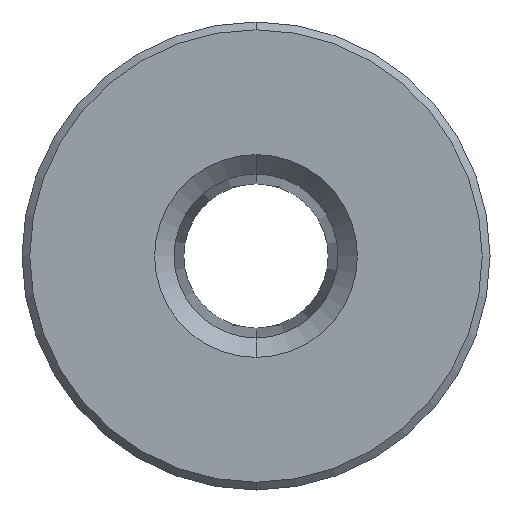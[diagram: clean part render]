
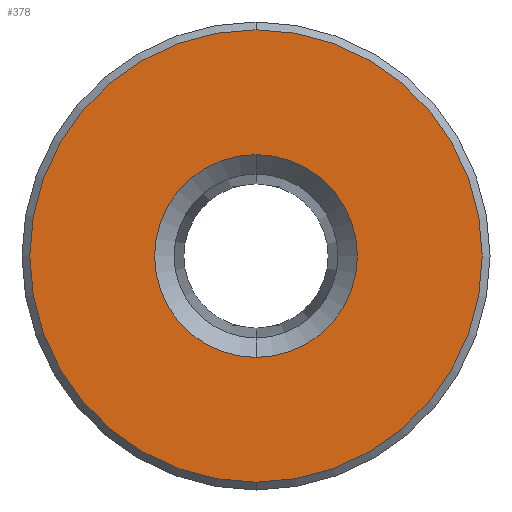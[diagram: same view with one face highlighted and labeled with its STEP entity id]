
A CAD part, front view. The second image highlights one B-rep face of the part: STEP entity #378.
In plain terms, the highlighted planar face has unit normal (0, -1, 0).
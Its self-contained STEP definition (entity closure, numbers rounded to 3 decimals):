
#8 = DIRECTION ( 'NONE',  ( 0., 0., -1. ) ) ;
#28 = VERTEX_POINT ( 'NONE', #431 ) ;
#43 = PLANE ( 'NONE',  #490 ) ;
#52 = CARTESIAN_POINT ( 'NONE',  ( 0., 0., 0. ) ) ;
#76 = VERTEX_POINT ( 'NONE', #388 ) ;
#81 = ORIENTED_EDGE ( 'NONE', *, *, #390, .T. ) ;
#95 = CARTESIAN_POINT ( 'NONE',  ( 0., 0., 0. ) ) ;
#108 = EDGE_CURVE ( 'NONE', #76, #485, #160, .T. ) ;
#120 = ORIENTED_EDGE ( 'NONE', *, *, #470, .T. ) ;
#134 = DIRECTION ( 'NONE',  ( 0., -1., 0. ) ) ;
#144 = CIRCLE ( 'NONE', #338, 2.6 ) ;
#146 = AXIS2_PLACEMENT_3D ( 'NONE', #52, #379, #628 ) ;
#160 = CIRCLE ( 'NONE', #406, 2.6 ) ;
#171 = VERTEX_POINT ( 'NONE', #508 ) ;
#215 = CIRCLE ( 'NONE', #146, 5.8 ) ;
#223 = EDGE_LOOP ( 'NONE', ( #468, #120 ) ) ;
#225 = CARTESIAN_POINT ( 'NONE',  ( -6., 0., 0. ) ) ;
#229 = EDGE_CURVE ( 'NONE', #28, #171, #258, .T. ) ;
#238 = DIRECTION ( 'NONE',  ( 0., 0., -1. ) ) ;
#258 = CIRCLE ( 'NONE', #610, 5.8 ) ;
#277 = DIRECTION ( 'NONE',  ( 0., -1., 0. ) ) ;
#319 = ORIENTED_EDGE ( 'NONE', *, *, #108, .T. ) ;
#327 = CARTESIAN_POINT ( 'NONE',  ( 0., 0., 0. ) ) ;
#338 = AXIS2_PLACEMENT_3D ( 'NONE', #327, #622, #533 ) ;
#378 = ADVANCED_FACE ( 'NONE', ( #528, #581 ), #43, .T. ) ;
#379 = DIRECTION ( 'NONE',  ( 0., -1., 0. ) ) ;
#388 = CARTESIAN_POINT ( 'NONE',  ( 0., 0., 2.6 ) ) ;
#390 = EDGE_CURVE ( 'NONE', #485, #76, #144, .T. ) ;
#393 = DIRECTION ( 'NONE',  ( 0., 1., 0. ) ) ;
#406 = AXIS2_PLACEMENT_3D ( 'NONE', #497, #393, #8 ) ;
#429 = DIRECTION ( 'NONE',  ( 0., 0., -1. ) ) ;
#431 = CARTESIAN_POINT ( 'NONE',  ( 0., 0., 5.8 ) ) ;
#460 = EDGE_LOOP ( 'NONE', ( #81, #319 ) ) ;
#468 = ORIENTED_EDGE ( 'NONE', *, *, #229, .T. ) ;
#470 = EDGE_CURVE ( 'NONE', #171, #28, #215, .T. ) ;
#485 = VERTEX_POINT ( 'NONE', #537 ) ;
#490 = AXIS2_PLACEMENT_3D ( 'NONE', #225, #134, #429 ) ;
#497 = CARTESIAN_POINT ( 'NONE',  ( 0., 0., 0. ) ) ;
#508 = CARTESIAN_POINT ( 'NONE',  ( 0., 0., -5.8 ) ) ;
#528 = FACE_BOUND ( 'NONE', #460, .T. ) ;
#533 = DIRECTION ( 'NONE',  ( 0., 0., -1. ) ) ;
#537 = CARTESIAN_POINT ( 'NONE',  ( 0., 0., -2.6 ) ) ;
#581 = FACE_OUTER_BOUND ( 'NONE', #223, .T. ) ;
#610 = AXIS2_PLACEMENT_3D ( 'NONE', #95, #277, #238 ) ;
#622 = DIRECTION ( 'NONE',  ( 0., 1., 0. ) ) ;
#628 = DIRECTION ( 'NONE',  ( 0., 0., -1. ) ) ;
